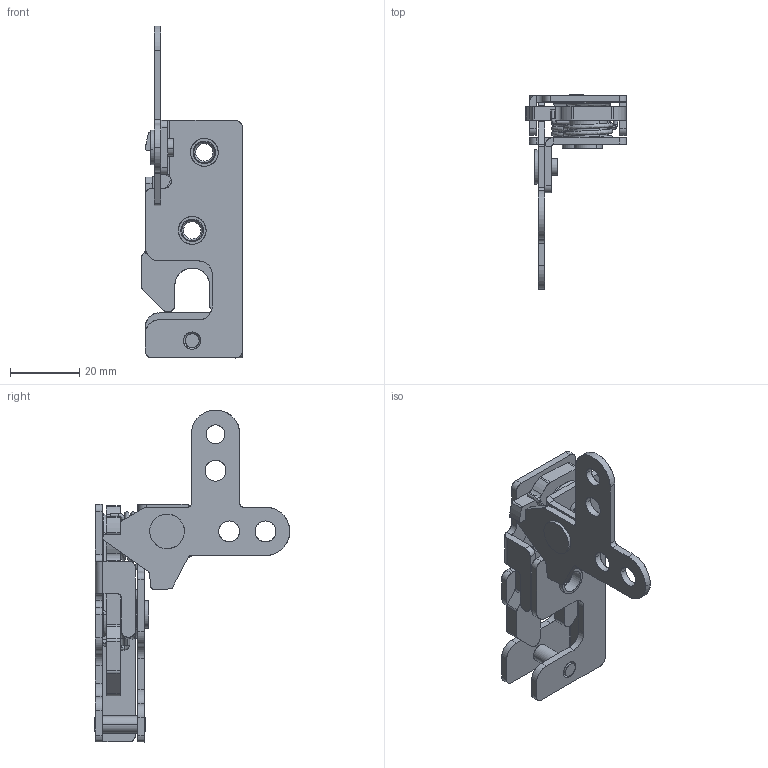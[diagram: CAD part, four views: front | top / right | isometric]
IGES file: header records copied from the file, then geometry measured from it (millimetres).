
Start section: SolidWorks IGES file using analytic representation for surfaces
Global section: file name: D:\Personal\Desktop\DK618-8-Y.IGS; native system: SolidWorks 2018; preprocessor: SolidWorks 2018; author: Administrator; date: 200619.170435; units: millimetre
Bounding box: 29.1 x 56.4 x 95.75 mm (x, y, z)
Surface area: 17533.2 mm2 (no closed solid volume)
Topology: 0 solids, 0 shells, 341 faces, 4800 edges, 4798 vertices
Faces by surface type: revolution 195, bspline 146
